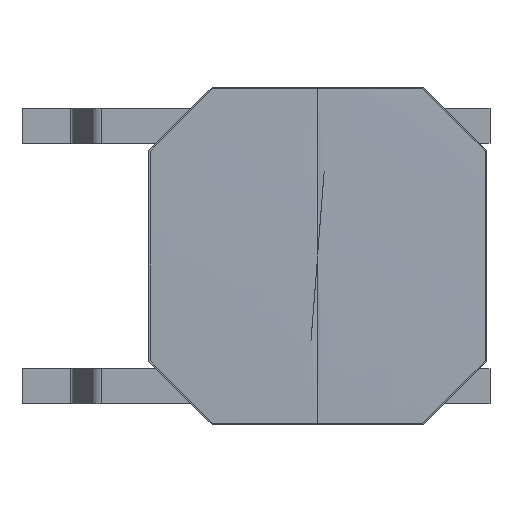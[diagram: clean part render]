
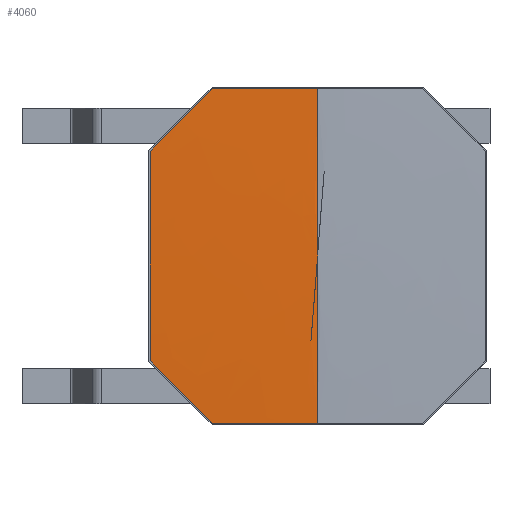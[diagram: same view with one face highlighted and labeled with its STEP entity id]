
A CAD part, front view. The second image highlights one B-rep face of the part: STEP entity #4060.
In plain terms, the highlighted face is a revolution surface.
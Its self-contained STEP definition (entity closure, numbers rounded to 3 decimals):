
#3701=CARTESIAN_POINT('',(-2.38,-0.068,1.492));
#3702=CARTESIAN_POINT('',(-2.38,-0.069,1.426));
#3703=CARTESIAN_POINT('',(-2.38,-0.071,1.293));
#3704=CARTESIAN_POINT('',(-2.38,-0.073,1.095));
#3705=CARTESIAN_POINT('',(-2.38,-0.074,0.896));
#3706=CARTESIAN_POINT('',(-2.38,-0.075,0.698));
#3707=CARTESIAN_POINT('',(-2.38,-0.076,0.499));
#3708=CARTESIAN_POINT('',(-2.38,-0.077,0.301));
#3709=CARTESIAN_POINT('',(-2.38,-0.077,0.101));
#3710=CARTESIAN_POINT('',(-2.38,-0.077,-0.098));
#3711=CARTESIAN_POINT('',(-2.38,-0.077,-0.298));
#3712=CARTESIAN_POINT('',(-2.38,-0.076,-0.498));
#3713=CARTESIAN_POINT('',(-2.38,-0.075,-0.697));
#3714=CARTESIAN_POINT('',(-2.38,-0.074,-0.896));
#3715=CARTESIAN_POINT('',(-2.38,-0.073,-1.094));
#3716=CARTESIAN_POINT('',(-2.38,-0.071,-1.293));
#3717=CARTESIAN_POINT('',(-2.38,-0.069,-1.425));
#3718=CARTESIAN_POINT('',(-2.38,-0.068,-1.492));
#3723=CARTESIAN_POINT('',(-1.492,-0.068,2.38));
#3724=CARTESIAN_POINT('',(-1.565,-0.069,
2.306));
#3725=CARTESIAN_POINT('',(-1.713,-0.07,
2.159));
#3726=CARTESIAN_POINT('',(-1.936,-0.07,
1.936));
#3727=CARTESIAN_POINT('',(-2.159,-0.07,
1.713));
#3728=CARTESIAN_POINT('',(-2.306,-0.069,
1.565));
#3729=CARTESIAN_POINT('',(-2.38,-0.068,1.492));
#3734=CARTESIAN_POINT('',(0.,-0.077,2.38));
#3735=CARTESIAN_POINT('',(-0.063,-0.077,2.38));
#3736=CARTESIAN_POINT('',(-0.188,-0.077,2.38));
#3737=CARTESIAN_POINT('',(-0.375,-0.077,2.38));
#3738=CARTESIAN_POINT('',(-0.562,-0.076,2.38));
#3739=CARTESIAN_POINT('',(-0.749,-0.075,2.38));
#3740=CARTESIAN_POINT('',(-0.935,-0.074,2.38));
#3741=CARTESIAN_POINT('',(-1.12,-0.072,2.38));
#3742=CARTESIAN_POINT('',(-1.306,-0.071,2.38));
#3743=CARTESIAN_POINT('',(-1.43,-0.069,2.38));
#3744=CARTESIAN_POINT('',(-1.492,-0.068,2.38));
#3749=CARTESIAN_POINT('',(0.,-0.077,2.38));
#3750=CARTESIAN_POINT('',(0.,-0.092,1.587));
#3751=CARTESIAN_POINT('',(0.,-0.1,0.793));
#3752=CARTESIAN_POINT('',(0.,-0.1,0.));
#3757=CARTESIAN_POINT('',(0.,-0.077,-2.38));
#3758=CARTESIAN_POINT('',(0.,-0.092,-1.587));
#3759=CARTESIAN_POINT('',(0.,-0.1,-0.793));
#3760=CARTESIAN_POINT('',(0.,-0.1,0.));
#3765=CARTESIAN_POINT('',(-1.492,-0.068,-2.38));
#3766=CARTESIAN_POINT('',(-1.43,-0.069,-2.38));
#3767=CARTESIAN_POINT('',(-1.306,-0.071,-2.38));
#3768=CARTESIAN_POINT('',(-1.119,-0.072,-2.38));
#3769=CARTESIAN_POINT('',(-0.933,-0.074,-2.38));
#3770=CARTESIAN_POINT('',(-0.747,-0.075,-2.38));
#3771=CARTESIAN_POINT('',(-0.561,-0.076,-2.38));
#3772=CARTESIAN_POINT('',(-0.375,-0.077,-2.38));
#3773=CARTESIAN_POINT('',(-0.188,-0.077,-2.38));
#3774=CARTESIAN_POINT('',(-0.063,-0.077,-2.38));
#3775=CARTESIAN_POINT('',(0.,-0.077,-2.38));
#3780=CARTESIAN_POINT('',(-2.38,-0.068,-1.492));
#3781=CARTESIAN_POINT('',(-2.306,-0.069,
-1.565));
#3782=CARTESIAN_POINT('',(-2.159,-0.07,
-1.713));
#3783=CARTESIAN_POINT('',(-1.936,-0.07,
-1.936));
#3784=CARTESIAN_POINT('',(-1.713,-0.07,
-2.159));
#3785=CARTESIAN_POINT('',(-1.565,-0.069,
-2.306));
#3786=CARTESIAN_POINT('',(-1.492,-0.068,-2.38));
#3791=CARTESIAN_POINT('',(0.,-0.077,-2.38));
#3816=CARTESIAN_POINT('',(0.,-0.077,2.38));
#3866=CARTESIAN_POINT('',(-2.38,-0.068,1.492));
#3868=VERTEX_POINT('',#3866);
#3870=CARTESIAN_POINT('',(-2.38,-0.068,-1.492));
#3872=VERTEX_POINT('',#3870);
#3874=CARTESIAN_POINT('',(-1.492,-0.068,-2.38));
#3876=VERTEX_POINT('',#3874);
#3894=CARTESIAN_POINT('',(-1.492,-0.068,2.38));
#3896=VERTEX_POINT('',#3894);
#3897=VERTEX_POINT('',#3791);
#3898=VERTEX_POINT('',#3816);
#3899=VERTEX_POINT('',#3752);
#4040=CARTESIAN_POINT('',(0.,-0.1,0.));
#4041=CARTESIAN_POINT('',(0.,-0.1,0.946));
#4042=CARTESIAN_POINT('',(0.,-0.089,1.891));
#4043=CARTESIAN_POINT('',(0.,-0.068,2.837));
#4045=CARTESIAN_POINT('',(0.,-0.105,0.));
#4046=DIRECTION('',(0.,1.,0.));
#4047=AXIS1_PLACEMENT('',#4045,#4046);
#4048=SURFACE_OF_REVOLUTION('',#4044,#4047);
#4049=ORIENTED_EDGE('',*,*,#3931,.F.);
#4050=ORIENTED_EDGE('',*,*,#3948,.F.);
#4051=ORIENTED_EDGE('',*,*,#3962,.F.);
#4053=ORIENTED_EDGE('',*,*,#4052,.T.);
#4055=ORIENTED_EDGE('',*,*,#4054,.F.);
#4056=ORIENTED_EDGE('',*,*,#4018,.F.);
#4057=ORIENTED_EDGE('',*,*,#4033,.F.);
#4058=EDGE_LOOP('',(#4049,#4050,#4051,#4053,#4055,#4056,#4057));
#4059=FACE_OUTER_BOUND('',#4058,.F.);
#3719=B_SPLINE_CURVE_WITH_KNOTS('',3,(#3701,#3702,#3703,#3704,#3705,#3706,#3707,
#3708,#3709,#3710,#3711,#3712,#3713,#3714,#3715,#3716,#3717,#3718),
.UNSPECIFIED.,.F.,.F.,(4,1,1,1,1,1,1,1,1,1,1,1,1,1,1,4),(0.,0.067,
0.133,0.2,0.267,0.333,0.4,
0.467,0.533,0.6,0.667,0.733,
0.8,0.867,0.933,1.),.UNSPECIFIED.);
#3730=B_SPLINE_CURVE_WITH_KNOTS('',3,(#3723,#3724,#3725,#3726,#3727,#3728,
#3729),.UNSPECIFIED.,.F.,.F.,(4,1,1,1,4),(0.,0.25,0.5,0.75,1.),
.UNSPECIFIED.);
#3745=B_SPLINE_CURVE_WITH_KNOTS('',3,(#3734,#3735,#3736,#3737,#3738,#3739,#3740,
#3741,#3742,#3743,#3744),.UNSPECIFIED.,.F.,.F.,(4,1,1,1,1,1,1,1,4),(0.,
0.125,0.25,0.375,0.5,0.625,0.75,0.875,1.),.UNSPECIFIED.);
#3753=B_SPLINE_CURVE_WITH_KNOTS('',3,(#3749,#3750,#3751,#3752),.UNSPECIFIED.,
.F.,.F.,(4,4),(0.,1.),.UNSPECIFIED.);
#3761=B_SPLINE_CURVE_WITH_KNOTS('',3,(#3757,#3758,#3759,#3760),.UNSPECIFIED.,
.F.,.F.,(4,4),(0.,1.),.UNSPECIFIED.);
#3776=B_SPLINE_CURVE_WITH_KNOTS('',3,(#3765,#3766,#3767,#3768,#3769,#3770,#3771,
#3772,#3773,#3774,#3775),.UNSPECIFIED.,.F.,.F.,(4,1,1,1,1,1,1,1,4),(0.,
0.125,0.25,0.375,0.5,0.625,0.75,0.875,1.),.UNSPECIFIED.);
#3787=B_SPLINE_CURVE_WITH_KNOTS('',3,(#3780,#3781,#3782,#3783,#3784,#3785,
#3786),.UNSPECIFIED.,.F.,.F.,(4,1,1,1,4),(0.,0.25,0.5,0.75,1.),
.UNSPECIFIED.);
#3931=EDGE_CURVE('',#3868,#3872,#3719,.T.);
#3948=EDGE_CURVE('',#3896,#3868,#3730,.T.);
#3962=EDGE_CURVE('',#3898,#3896,#3745,.T.);
#4018=EDGE_CURVE('',#3876,#3897,#3776,.T.);
#4033=EDGE_CURVE('',#3872,#3876,#3787,.T.);
#4044=B_SPLINE_CURVE_WITH_KNOTS('',3,(#4040,#4041,#4042,#4043),.UNSPECIFIED.,
.F.,.F.,(4,4),(0.,1.),.UNSPECIFIED.);
#4052=EDGE_CURVE('',#3898,#3899,#3753,.T.);
#4054=EDGE_CURVE('',#3897,#3899,#3761,.T.);
#4060=ADVANCED_FACE('',(#4059),#4048,.T.);
